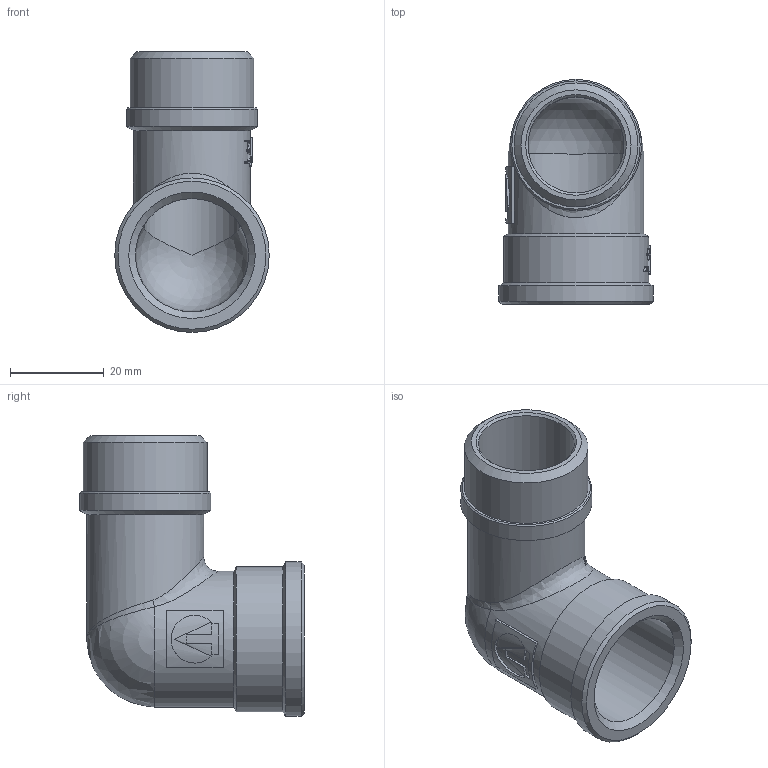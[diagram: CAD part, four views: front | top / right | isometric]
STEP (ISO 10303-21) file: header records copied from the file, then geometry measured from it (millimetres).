
FILE_DESCRIPTION(('STEP AP203'), '1');
FILE_NAME('ÂÐ.752218.003 - VTr.092.N.0005 - Ôèò. ðåçüá. óãîë', '2024-06-20T13:35:23', ('Boss'), (''), 'C3D Converter', 'C3D Toolkit', '');
FILE_SCHEMA(('CONFIG_CONTROL_DESIGN'));
Length unit declared in the file: millimetre
Products named in the file (1): ВР.752218.003
Bounding box: 33 x 48 x 60 mm (x, y, z)
Volume: 16518.7 mm3; surface area: 12634.2 mm2
Topology: 1 solids, 1 shells, 260 faces, 733 edges, 482 vertices
Faces by surface type: extrusion 138, plane 87, cylinder 22, cone 8, bspline 3, sphere 2
Full cylindrical faces by diameter (mm): 20.5 x1, 24.2 x1, 25 x1, 26.441 x1, 28 x1, 29 x1, 31 x1, 33 x1
Entity records: 12217 total; most frequent: CARTESIAN_POINT 6301, ORIENTED_EDGE 1420, DIRECTION 795, EDGE_CURVE 710, VERTEX_POINT 482, B_SPLINE_CURVE_WITH_KNOTS 428, VECTOR 405, EDGE_LOOP 292
